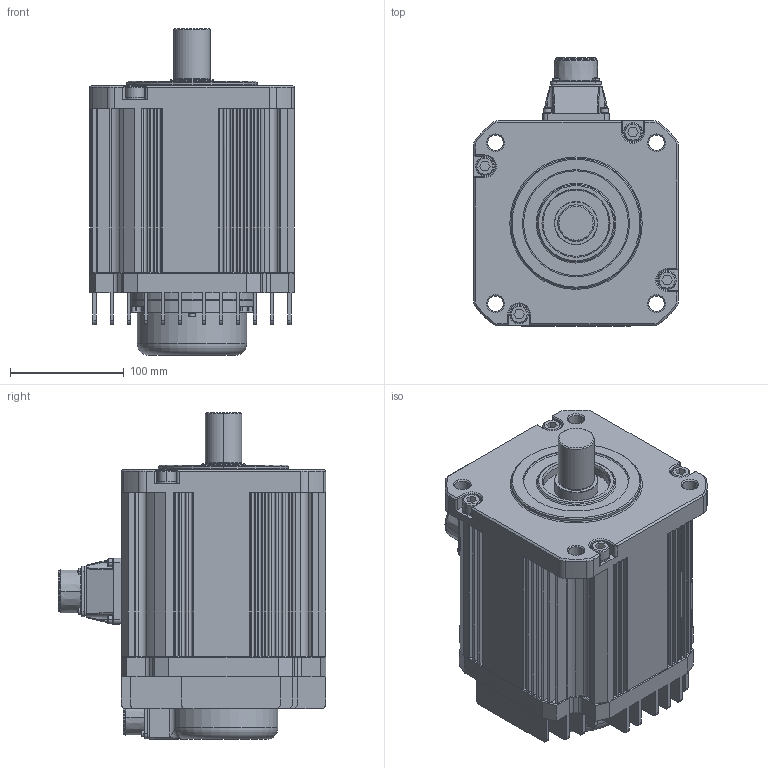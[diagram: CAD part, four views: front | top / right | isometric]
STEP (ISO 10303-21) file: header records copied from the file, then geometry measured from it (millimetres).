
FILE_DESCRIPTION((''),'2;1');
FILE_NAME('TSM1808N8000_OUTLINE','2022-06-14T09:39:36',('tec1068'),('Tamagawa Seiki Co.,LTD'),'CREO PARAMETRIC BY PTC INC, 2019030','CREO PARAMETRIC BY PTC INC, 2019030','');
FILE_SCHEMA(('AUTOMOTIVE_DESIGN { 1 0 10303 214 1 1 1 1 }'));
Length unit declared in the file: millimetre
Products named in the file (1): TSM1808N8000_OUTLINE
Bounding box: 180 x 235.32 x 287 mm (x, y, z)
Volume: 5830757.9 mm3; surface area: 344794.7 mm2
Topology: 1 solids, 6 shells, 1407 faces, 3571 edges, 2234 vertices
Faces by surface type: plane 733, cylinder 481, cone 104, sphere 51, torus 26, bspline 12
Entity records: 43532 total; most frequent: CARTESIAN_POINT 8780, DIRECTION 7546, ORIENTED_EDGE 7034, EDGE_CURVE 3517, AXIS2_PLACEMENT_3D 2769, VERTEX_POINT 2234, VECTOR 2008, LINE 2008
